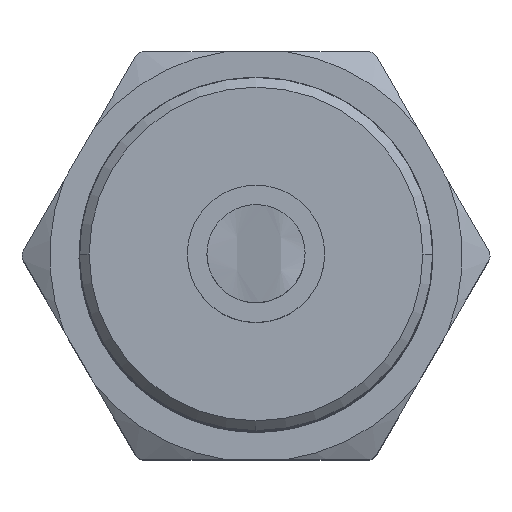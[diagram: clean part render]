
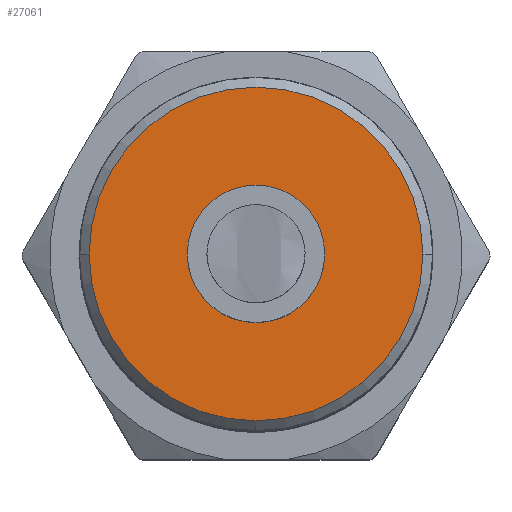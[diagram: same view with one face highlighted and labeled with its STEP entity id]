
A CAD part, top view. The second image highlights one B-rep face of the part: STEP entity #27061.
In plain terms, the highlighted planar face has unit normal (0, 0, 1).
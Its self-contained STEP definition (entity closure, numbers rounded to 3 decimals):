
#12206=CARTESIAN_POINT('',(0.,0.,80.));
#12207=DIRECTION('',(0.,0.,1.));
#12208=DIRECTION('',(1.,0.,0.));
#12209=AXIS2_PLACEMENT_3D('',#12206,#12207,#12208);
#12214=CARTESIAN_POINT('',(0.,0.,80.));
#12215=DIRECTION('',(0.,0.,1.));
#12216=DIRECTION('',(-1.,0.,0.));
#12217=AXIS2_PLACEMENT_3D('',#12214,#12215,#12216);
#12222=CARTESIAN_POINT('',(0.,0.,80.));
#12223=DIRECTION('',(0.,0.,1.));
#12224=DIRECTION('',(-1.,0.,0.));
#12225=AXIS2_PLACEMENT_3D('',#12222,#12223,#12224);
#12230=CARTESIAN_POINT('',(0.,0.,80.));
#12231=DIRECTION('',(0.,0.,1.));
#12232=DIRECTION('',(1.,0.,0.));
#12233=AXIS2_PLACEMENT_3D('',#12230,#12231,#12232);
#12346=CARTESIAN_POINT('',(-8.5,0.,
80.));
#12347=VERTEX_POINT('',#12346);
#12348=CARTESIAN_POINT('',(8.5,0.,
80.));
#12349=VERTEX_POINT('',#12348);
#12758=CARTESIAN_POINT('',(-3.5,0.,80.));
#12759=CARTESIAN_POINT('',(3.5,0.,80.));
#12760=VERTEX_POINT('',#12758);
#12761=VERTEX_POINT('',#12759);
#27046=CARTESIAN_POINT('',(0.,0.,80.));
#27047=DIRECTION('',(0.,0.,1.));
#27048=DIRECTION('',(1.,0.,0.));
#27049=AXIS2_PLACEMENT_3D('',#27046,#27047,#27048);
#27050=PLANE('',#27049);
#27051=ORIENTED_EDGE('',*,*,#27040,.F.);
#27052=ORIENTED_EDGE('',*,*,#27025,.F.);
#27053=EDGE_LOOP('',(#27051,#27052));
#27054=FACE_OUTER_BOUND('',#27053,.F.);
#27056=ORIENTED_EDGE('',*,*,#27055,.T.);
#27058=ORIENTED_EDGE('',*,*,#27057,.T.);
#27059=EDGE_LOOP('',(#27056,#27058));
#27060=FACE_BOUND('',#27059,.F.);
#12210=CIRCLE('',#12209,8.5);
#12218=CIRCLE('',#12217,8.5);
#12226=CIRCLE('',#12225,3.5);
#12234=CIRCLE('',#12233,3.5);
#27025=EDGE_CURVE('',#12347,#12349,#12218,.T.);
#27040=EDGE_CURVE('',#12349,#12347,#12210,.T.);
#27055=EDGE_CURVE('',#12760,#12761,#12226,.T.);
#27057=EDGE_CURVE('',#12761,#12760,#12234,.T.);
#27061=ADVANCED_FACE('',(#27054,#27060),#27050,.T.);
